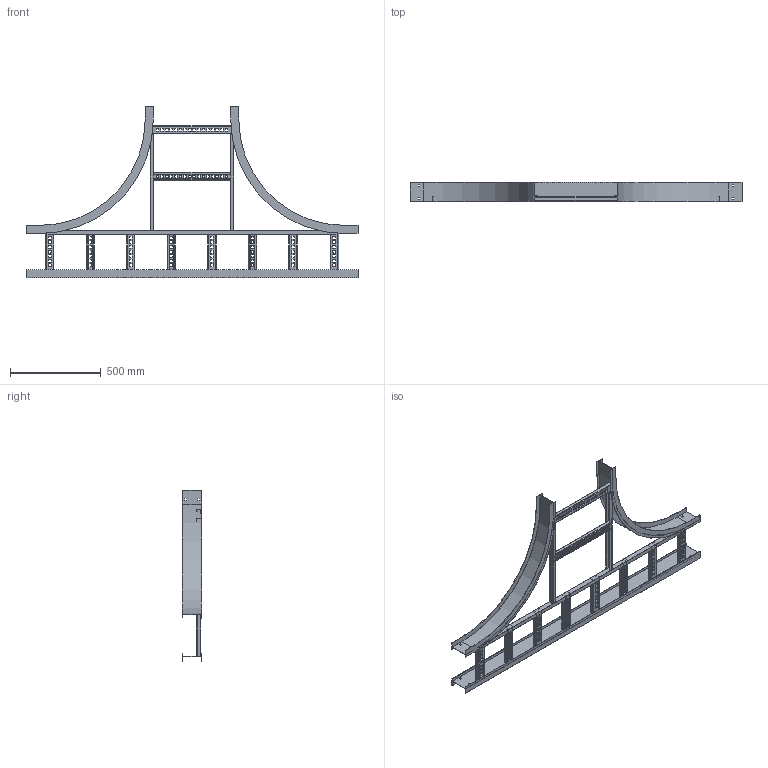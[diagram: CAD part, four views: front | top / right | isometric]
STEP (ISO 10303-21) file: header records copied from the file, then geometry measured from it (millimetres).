
FILE_DESCRIPTION((''),'2;1');
FILE_NAME('AHF40918LET24_ASM','2010-01-28T',('erouzier'),(''),'PRO/ENGINEER BY PARAMETRIC TECHNOLOGY CORPORATION, 2008510','PRO/ENGINEER BY PARAMETRIC TECHNOLOGY CORPORATION, 2008510','');
FILE_SCHEMA(('CONFIG_CONTROL_DESIGN'));
Length unit declared in the file: inch
Products named in the file (16): CDS001810-4-90-24-I; CDS013845-4-72; CDS000495_GEN_AF9; CDS002159L9-P_AF8; CDS002159L9-P_AF9; CDS002159L9-P_AF10; CDS002159L9-P_AF11; CDS002159L9-P_AF12; CDS002159L9-P_AF13; CDS002159L9-P_AF14; CDS002159L9-P_AF15; CDS000495_GEN_AF10; CDS000495_GEN_AF11; CDS002159L18-P_AF6; CDS002159L18-P_AF7; AHF40918LET24_ASM
Assembly tree (16 placements, depth 2):
  AHF40918LET24_ASM
    CDS001810-4-90-24-I  x2
    CDS013845-4-72
    CDS000495_GEN_AF9
    CDS002159L9-P_AF8
    CDS002159L9-P_AF9
    CDS002159L9-P_AF10
    CDS002159L9-P_AF11
    CDS002159L9-P_AF12
    CDS002159L9-P_AF13
    CDS002159L9-P_AF14
    CDS002159L9-P_AF15
    CDS000495_GEN_AF10
    CDS000495_GEN_AF11
    CDS002159L18-P_AF6
    CDS002159L18-P_AF7
Bounding box: 1832.61 x 106.43 x 946.4 mm (x, y, z)
Volume: 2311900.1 mm3; surface area: 2540994.2 mm2
Topology: 16 solids, 16 shells, 1148 faces, 3348 edges, 2232 vertices
Faces by surface type: plane 674, cylinder 474
Entity records: 37526 total; most frequent: CARTESIAN_POINT 6518, ORIENTED_EDGE 6456, DIRECTION 6440, EDGE_CURVE 3228, VECTOR 2292, LINE 2292, VERTEX_POINT 2152, AXIS2_PLACEMENT_3D 2074
